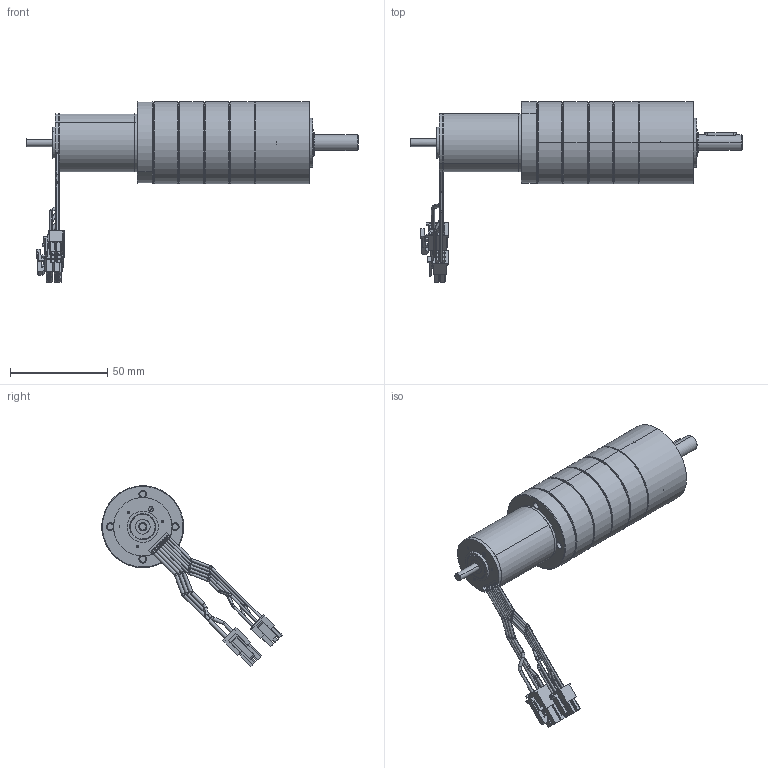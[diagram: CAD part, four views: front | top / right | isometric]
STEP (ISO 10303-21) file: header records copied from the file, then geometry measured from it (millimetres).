
FILE_DESCRIPTION (( 'STEP AP214' ), '1' );
FILE_NAME ('ECi30_PM42-4etages.STEP', '2019-11-08T13:50:44', ( '' ), ( '' ), 'SwSTEP 2.0', 'SolidWorks 2018', '' );
FILE_SCHEMA (( 'AUTOMOTIVE_DESIGN' ));
Length unit declared in the file: millimetre
Products named in the file (17): 539481_EC-i30_45W_HighTorque; P8209_8007589_ZAHNKRANZ_Z46_13_3; 8007595_LAGERFLANSCH_13_3; 8001288_ANLAUFSCHEIBE_1ST_12_3; 8001305_LAGERBOLZEN_14_3; SCHRAUBE_1241978_23_3; MOTORFLANSCH_1241491_1_3; D471_8X0_8_14_3; 8007606_DICHTRING_13_3; MOTORRITZEL_Z17_1239849_1_3; ECi30_PM42-4etages; VBZ_K7841_ABTRIEB_AF0_14_3; 3X3X16_D6885A_14_3; DIN998_PS_8X14X1_14_3; 8001316_ABTRIEB_LK4_KPL_13_3; D625-608-2RS_13_3; D912_M3X8_9_3
Assembly tree (33 placements, depth 3):
  ECi30_PM42-4etages
    8007595_LAGERFLANSCH_13_3
    D625-608-2RS_13_3  x2
    DIN998_PS_8X14X1_14_3  x2
    8001316_ABTRIEB_LK4_KPL_13_3
      VBZ_K7841_ABTRIEB_AF0_14_3
      8001305_LAGERBOLZEN_14_3  x3
    D471_8X0_8_14_3
    3X3X16_D6885A_14_3
    8007606_DICHTRING_13_3  x5
    P8209_8007589_ZAHNKRANZ_Z46_13_3  x4
    MOTORFLANSCH_1241491_1_3
    8001288_ANLAUFSCHEIBE_1ST_12_3
    MOTORRITZEL_Z17_1239849_1_3
    SCHRAUBE_1241978_23_3  x4
    D912_M3X8_9_3  x4
    539481_EC-i30_45W_HighTorque
Bounding box: 170.35 x 92.52 x 92.56 mm (x, y, z)
Volume: 45223.2 mm3; surface area: 77826.1 mm2
Topology: 24 solids, 59 shells, 2153 faces, 5833 edges, 3784 vertices
Faces by surface type: plane 946, cylinder 910, cone 155, bspline 82, torus 60
Entity records: 55818 total; most frequent: CARTESIAN_POINT 10256, DIRECTION 7024, ORIENTED_EDGE 6720, EDGE_CURVE 3423, AXIS2_PLACEMENT_3D 2484, VERTEX_POINT 2219, LINE 2056, VECTOR 2056
